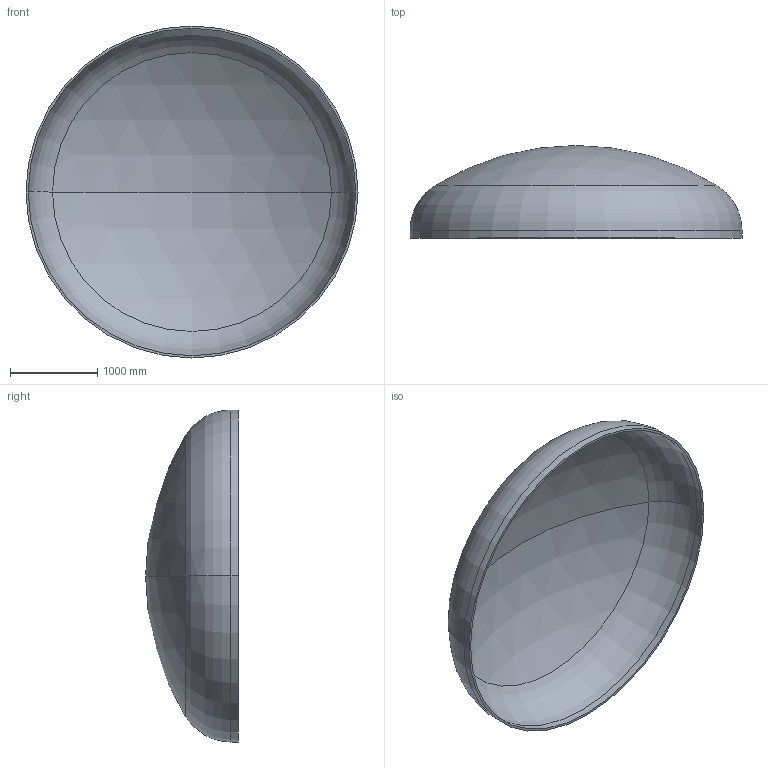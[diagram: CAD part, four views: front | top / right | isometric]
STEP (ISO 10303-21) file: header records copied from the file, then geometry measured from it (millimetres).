
FILE_DESCRIPTION (( 'STEP AP203' ), '1' );
FILE_NAME ('DIN 28013 Korbbogenform_-_Boden DIN 28013 - 3800 x 85 - I - s=26.step', '2016-07-01T21:12:47', ( '' ), ( '' ), 'SwSTEP 2.0', 'SolidWorks 2013', '' );
FILE_SCHEMA (( 'CONFIG_CONTROL_DESIGN' ));
Length unit declared in the file: millimetre
Products named in the file (1): DIN 28013 Korbbogenform_-_Boden DIN 28013 - 3800 x 85 - I - s=26
Bounding box: 3800 x 1061.62 x 3800 mm (x, y, z)
Volume: 430893950.6 mm3; surface area: 33455357.2 mm2
Topology: 1 solids, 1 shells, 13 faces, 24 edges, 14 vertices
Faces by surface type: torus 4, cylinder 4, sphere 4, plane 1
Entity records: 407 total; most frequent: DIRECTION 72, CARTESIAN_POINT 52, ORIENTED_EDGE 48, AXIS2_PLACEMENT_3D 34, EDGE_CURVE 24, CIRCLE 20, VERTEX_POINT 14, EDGE_LOOP 14
